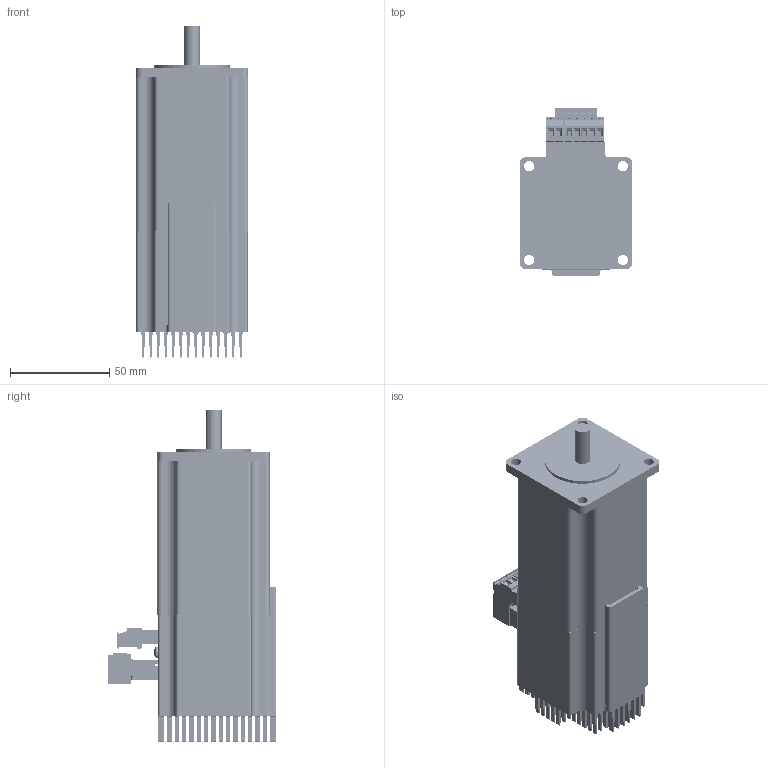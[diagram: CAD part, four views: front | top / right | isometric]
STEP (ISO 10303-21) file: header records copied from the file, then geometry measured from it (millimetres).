
FILE_DESCRIPTION(/* description */ ('Alibre Inc.'),/* implementation_level */ '2;1');
FILE_NAME(/* name */ 'export-2FA1E7AB-552C-4192-86B9-2CB1CF79F7B3',/* time_stamp */ '2019-01-25T14:43:04-08:00',/* author */ (''),/* organization */ (''),/* preprocessor_version */ 'ST-DEVELOPER v17',/* originating_system */ 'Alibre',/* authorisation */ '');
FILE_SCHEMA (('AUTOMOTIVE_DESIGN'));
Length unit declared in the file: inch
Products named in the file (52): 91771A120; 91772A106
Bounding box: 56.4 x 84.65 x 166.88 mm (x, y, z)
Volume: 296452.1 mm3; surface area: 113949.8 mm2
Topology: 37 solids, 46 shells, 9771 faces, 27608 edges, 18030 vertices
Faces by surface type: plane 6334, cylinder 3085, cone 149, bspline 138, sphere 35, torus 30
Full cylindrical faces by diameter (mm): 0.254 x12, 0.483 x2, 0.508 x2, 0.635 x1, 1.397 x12, 1.524 x9, 1.694 x2, 2.007 x1, 2.156 x7, 2.459 x8, 2.54 x2, 2.705 x2, 2.845 x2, 3 x4, 3.175 x8, 3.556 x2, 3.571 x4, 4.089 x6, 4.216 x2, 5.1 x4, 5.182 x2, 5.563 x2, 6.35 x1, 7.925 x1, 8 x1, 38.1 x1
Entity records: 302812 total; most frequent: CARTESIAN_POINT 86435, ORIENTED_EDGE 49524, DIRECTION 35563, EDGE_CURVE 24762, VECTOR 17440, LINE 17440, VERTEX_POINT 16229, AXIS2_PLACEMENT_3D 11723
